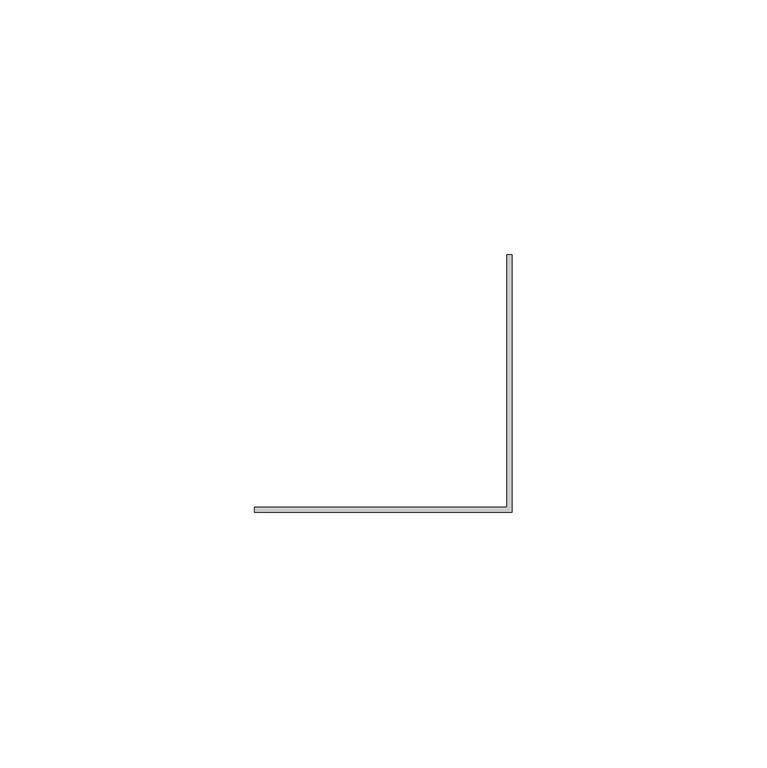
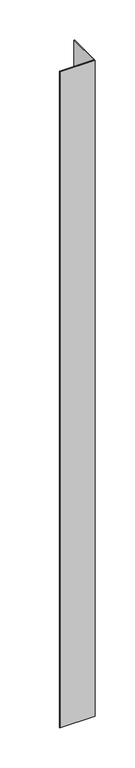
"""IFC4 building model written with IfcOpenShell, lengths in millimetres: member geometry, Meneau d'angle en L : ATELIERS 3S_Angle rentrant."""

import ifcopenshell
import ifcopenshell.guid

model = None  # the IFC model being written
_history = None  # IfcOwnerHistory: only IFC2X3 demands one
_inside = {}  # id of a spatial element -> (the spatial element, [elements in it])
_under = {}  # id of a project, library or spatial element -> (it, [spatial elements below it])
_declared = {}  # id of a project -> (the project, [libraries it declares])
_typed = {}  # id of a type object -> (the type object, [elements of that type])
_made_of = {}  # id of a material, layer set ... -> (it, [elements and type objects made of it])


def new_model(schema):
    """Start an empty IFC model of exactly this schema.

    Asked for "IFC4X3", IfcOpenShell would pick the latest addendum, in which some entities
    have other attributes; the version numbers below select the first issue.
    IFC2X3 requires an IfcOwnerHistory on every rooted entity: one is made here for all.
    """
    global model, _history
    if schema == "IFC4X3":
        model = ifcopenshell.file(schema_version=(4, 3, 0, 0))
    else:
        model = ifcopenshell.file(schema=schema)
    _inside.clear()
    _under.clear()
    _declared.clear()
    _typed.clear()
    _made_of.clear()
    _history = None
    if model.schema == "IFC2X3":
        org = make("IfcOrganization", Name="unknown")
        user = make(
            "IfcPersonAndOrganization",
            ThePerson=make("IfcPerson", FamilyName="unknown"),
            TheOrganization=org,
        )
        app = make(
            "IfcApplication",
            ApplicationDeveloper=org,
            Version="unknown",
            ApplicationFullName="unknown",
            ApplicationIdentifier="unknown",
        )
        _history = make(
            "IfcOwnerHistory",
            OwningUser=user,
            OwningApplication=app,
            ChangeAction="ADDED",
            CreationDate=0,
        )
    return model


def make(cls, **values):
    """One entity of the class cls with the attributes given. An attribute that is None is left unset."""
    return model.create_entity(
        cls, **{name: value for name, value in values.items() if value is not None}
    )


def rooted(cls, **values):
    """An entity with a GlobalId (a new one), such as an element, a storey or a relation."""
    return make(cls, GlobalId=ifcopenshell.guid.new(), OwnerHistory=_history, **values)


def si_unit(unit_type, name, prefix=None):
    """IfcSIUnit, for example si_unit("LENGTHUNIT", "METRE", prefix="MILLI")."""
    return make("IfcSIUnit", UnitType=unit_type, Prefix=prefix, Name=name)


def assignment(units):
    """IfcUnitAssignment: the units of a project."""
    return None if units is None else make("IfcUnitAssignment", Units=units)


def point(xyz):
    """IfcCartesianPoint."""
    return None if xyz is None else make("IfcCartesianPoint", Coordinates=xyz)


def direction(xyz):
    """IfcDirection."""
    return None if xyz is None else make("IfcDirection", DirectionRatios=xyz)


def frame(location, z_axis=None, x_axis=None):
    """IfcAxis2Placement3D, a coordinate frame: its origin and axes. An axis left out is left unset."""
    return make(
        "IfcAxis2Placement3D",
        Location=point(location),
        Axis=direction(z_axis),
        RefDirection=direction(x_axis),
    )


def origin():
    """The frame at (0, 0, 0) with its axes left unset."""
    return frame((0.0, 0.0, 0.0))


def place(relative_to, where):
    """IfcLocalPlacement: puts the frame where relative to a parent placement (None: the world)."""
    return make(
        "IfcLocalPlacement", PlacementRelTo=relative_to, RelativePlacement=where
    )


def context(
    kind, dimensions, precision=None, world=None, true_north=None, identifier=None
):
    """IfcGeometricRepresentationContext, for example the 3D "Model" context."""
    return make(
        "IfcGeometricRepresentationContext",
        ContextIdentifier=identifier,
        ContextType=kind,
        CoordinateSpaceDimension=dimensions,
        Precision=precision,
        WorldCoordinateSystem=world,
        TrueNorth=true_north,
    )


def project(units=None, contexts=None):
    """IfcProject with its units and contexts."""
    return rooted(
        "IfcProject",
        Name="project",
        RepresentationContexts=contexts,
        UnitsInContext=assignment(units),
    )


def spatial(cls, under=None, at=None, **own):
    """A site, building, storey or space (cls), placed at a placement, below another one or the project."""
    s = rooted(cls, ObjectPlacement=at, **own)
    if under is not None:
        _under.setdefault(under.id(), (under, []))[1].append(s)
    return s


def polyline(points):
    """IfcPolyline through the points."""
    return make("IfcPolyline", Points=[point(p) for p in points])


def outline(outer, holes=None, kind="AREA"):
    """IfcArbitraryClosedProfileDef: a profile drawn as a closed curve; with holes, ...WithVoids."""
    if holes is None:
        return make("IfcArbitraryClosedProfileDef", ProfileType=kind, OuterCurve=outer)
    return make(
        "IfcArbitraryProfileDefWithVoids",
        ProfileType=kind,
        OuterCurve=outer,
        InnerCurves=holes,
    )


def extrude(swept, where, along, depth):
    """IfcExtrudedAreaSolid: the profile swept, set in the frame where, extruded along a direction by depth."""
    return make(
        "IfcExtrudedAreaSolid",
        SweptArea=swept,
        Position=where,
        ExtrudedDirection=direction(along),
        Depth=depth,
    )


def shape(context_of_items, identifier, shape_type, items):
    """IfcShapeRepresentation: the items that make up one representation, for example the "Body"."""
    return make(
        "IfcShapeRepresentation",
        ContextOfItems=context_of_items,
        RepresentationIdentifier=identifier,
        RepresentationType=shape_type,
        Items=items,
    )


def source(mapping_origin, context_of_items, identifier, shape_type, items):
    """IfcRepresentationMap: a shape defined once, which mapped items show again and again."""
    return make(
        "IfcRepresentationMap",
        MappingOrigin=mapping_origin,
        MappedRepresentation=shape(context_of_items, identifier, shape_type, items),
    )


def transform(
    local_origin,
    x_axis=None,
    y_axis=None,
    z_axis=None,
    scale=None,
    scale2=None,
    scale3=None,
    uniform=True,
):
    """IfcCartesianTransformationOperator3D, or its non-uniform kind. x_axis, y_axis, z_axis: its Axis1, 2, 3."""
    if uniform:
        return make(
            "IfcCartesianTransformationOperator3D",
            Axis1=direction(x_axis),
            Axis2=direction(y_axis),
            LocalOrigin=point(local_origin),
            Scale=scale,
            Axis3=direction(z_axis),
        )
    return make(
        "IfcCartesianTransformationOperator3DnonUniform",
        Axis1=direction(x_axis),
        Axis2=direction(y_axis),
        LocalOrigin=point(local_origin),
        Scale=scale,
        Axis3=direction(z_axis),
        Scale2=scale2,
        Scale3=scale3,
    )


def mapped(mapping_source, mapping_target):
    """IfcMappedItem: shows the shape of a source again, moved by a transform."""
    return make(
        "IfcMappedItem", MappingSource=mapping_source, MappingTarget=mapping_target
    )


def made_of(thing, what):
    """Note that an element or type object is made of a material, layer set ...; save() writes the relation."""
    if what is not None:
        _made_of.setdefault(what.id(), (what, []))[1].append(thing)
    return thing


def element(
    cls,
    number,
    at=None,
    inside=None,
    cuts=None,
    type_object=None,
    material=None,
    context=None,
    identifier="Body",
    shape_type=None,
    held_by="IfcProductDefinitionShape",
    body=None,
    shapes=None,
    **own,
):
    """One element of the class cls, such as IfcWall. Its Tag is "e" and its number.

    at: its placement. inside: the storey or other place that contains it. cuts: it is an
    opening in that element (IfcRelVoidsElement). A single representation is given by context,
    identifier, shape_type and body (its items); several are given by shapes. held_by: the class
    of the entity that holds the representations. save() writes the other relations.
    """
    e = rooted(cls, Tag="e%d" % number, ObjectPlacement=at, **own)
    if body is not None:
        shapes = [shape(context, identifier, shape_type, body)]
    if shapes is not None:
        e.Representation = make(held_by, Representations=shapes)
    if inside is not None:
        _inside.setdefault(inside.id(), (inside, []))[1].append(e)
    if cuts is not None:
        rooted(
            "IfcRelVoidsElement", RelatingBuildingElement=cuts, RelatedOpeningElement=e
        )
    if type_object is not None:
        _typed.setdefault(type_object.id(), (type_object, []))[1].append(e)
    return made_of(e, material)


def aggregate(whole, parts):
    """IfcRelAggregates: a whole, such as a stair, and the parts it consists of."""
    return rooted("IfcRelAggregates", RelatingObject=whole, RelatedObjects=parts)


def save(model, path):
    """Write the relations noted so far, then the file.

    IfcRelAggregates (storeys below a building ...), IfcRelContainedInSpatialStructure (elements
    in a storey), IfcRelDefinesByType, IfcRelAssociatesMaterial and IfcRelDeclares: one each for
    every whole, place, type object, material and project.
    """
    for whole, parts in _under.values():
        aggregate(whole, parts)
    for where, things in _inside.values():
        rooted(
            "IfcRelContainedInSpatialStructure",
            RelatedElements=things,
            RelatingStructure=where,
        )
    for kind, things in _typed.values():
        rooted("IfcRelDefinesByType", RelatedObjects=things, RelatingType=kind)
    for what, things in _made_of.values():
        rooted("IfcRelAssociatesMaterial", RelatedObjects=things, RelatingMaterial=what)
    for by, libraries in _declared.values():
        rooted("IfcRelDeclares", RelatingContext=by, RelatedDefinitions=libraries)
    model.write(path)


def member_c28fed5e(model_context):
    return source(origin(), model_context, "Body", "SweptSolid", [
        extrude(outline(polyline([(0.0, 50.5), (0.0, 0.0), (-50.5, 0.0), (-50.5, 1.0), (-1.0, 1.0), (-1.0, 50.5), (0.0, 50.5)])), frame((0.0, 0.0, -1000.0), z_axis=(0.0, 0.0, 1.0), x_axis=(1.0, 0.0, 0.0)), (0.0, 0.0, 1.0), 1000.0),
    ])


if __name__ == "__main__":
    model = new_model("IFC4")
    model_context = context("Model", 3, world=origin())
    ifc_project = project(units=[si_unit("LENGTHUNIT", "METRE", prefix="MILLI")], contexts=[model_context])
    site = spatial("IfcSite", under=ifc_project)
    building = spatial("IfcBuilding", under=site)
    placement = place(None, origin())
    member_shape = member_c28fed5e(model_context)
    element("IfcMember", 1, ObjectType="Meneau d'angle en L : ATELIERS 3S_Angle rentrant", at=placement, inside=building, context=model_context, shape_type="MappedRepresentation", body=[
        mapped(member_shape, transform((0.0, 0.0, 0.0), x_axis=(1.0, 0.0, 0.0), y_axis=(0.0, 1.0, 0.0), z_axis=(0.0, 0.0, 1.0))),
    ])
    save(model, "model.ifc")
